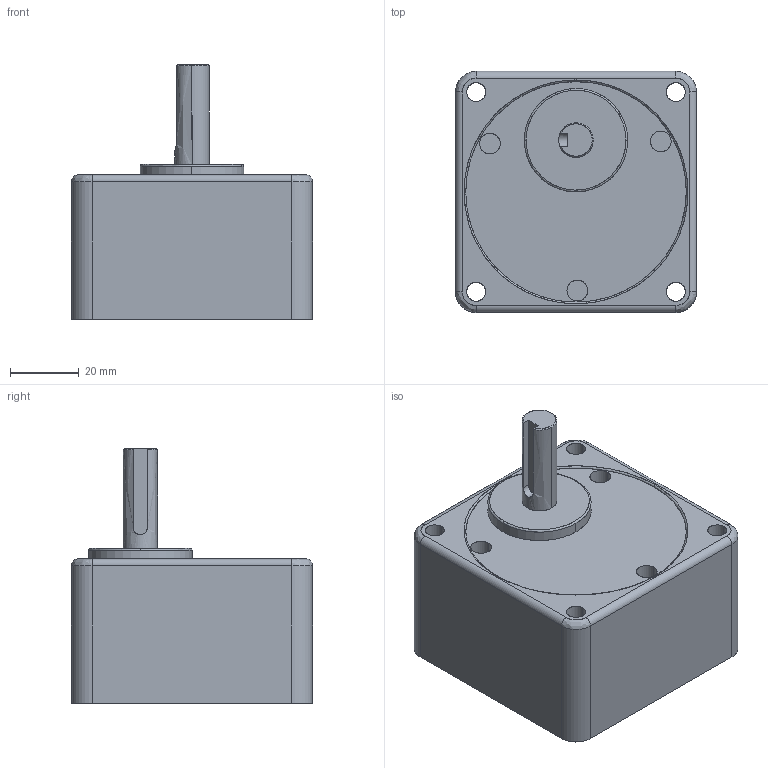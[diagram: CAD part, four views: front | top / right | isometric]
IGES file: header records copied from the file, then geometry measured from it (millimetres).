
Start section: SolidWorks IGES file using analytic representation for surfaces
Global section: file name: C:\Documents and Settings\user\ｹﾙﾅﾁ ﾈｭｸ饅(12-4) 7GBK｡滷MH(25~180).IGS,1; native system: 5HSolidWorks 2007; preprocessor: SolidWorks 2007; author: user; date: 150825.152546; units: millimetre
Bounding box: 70 x 70 x 74 mm (x, y, z)
Surface area: 26953 mm2 (no closed solid volume)
Topology: 0 solids, 0 shells, 59 faces, 1268 edges, 1268 vertices
Faces by surface type: revolution 34, bspline 25
